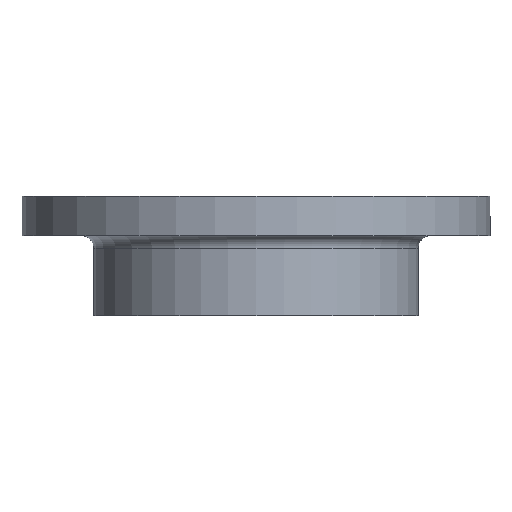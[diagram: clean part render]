
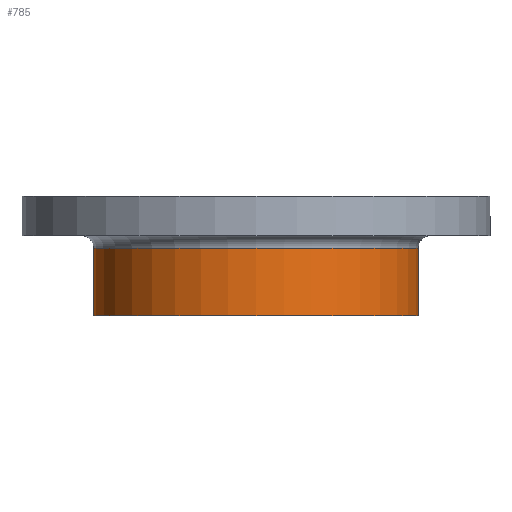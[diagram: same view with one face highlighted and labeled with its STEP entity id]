
A CAD part, front view. The second image highlights one B-rep face of the part: STEP entity #785.
In plain terms, the highlighted cylindrical face has radius 156 mm (diameter 312 mm), a partial arc.
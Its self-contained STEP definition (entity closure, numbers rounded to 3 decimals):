
#41 = CIRCLE ( 'NONE', #914, 156. ) ;
#160 = CARTESIAN_POINT ( 'NONE',  ( -156., 0., -115. ) ) ;
#179 = CIRCLE ( 'NONE', #181, 156. ) ;
#181 = AXIS2_PLACEMENT_3D ( 'NONE', #215, #213, #211 ) ;
#211 = DIRECTION ( 'NONE',  ( 1., 0., 0. ) ) ;
#213 = DIRECTION ( 'NONE',  ( 0., 0., 1. ) ) ;
#215 = CARTESIAN_POINT ( 'NONE',  ( 0., 0., -50. ) ) ;
#252 = CARTESIAN_POINT ( 'NONE',  ( 156., 0., -115. ) ) ;
#257 = CARTESIAN_POINT ( 'NONE',  ( -156., 0., -50. ) ) ;
#345 = DIRECTION ( 'NONE',  ( 0., 0., 1. ) ) ;
#346 = CARTESIAN_POINT ( 'NONE',  ( -156., 0., 0. ) ) ;
#347 = LINE ( 'NONE', #346, #589 ) ;
#358 = VECTOR ( 'NONE', #540, 1000. ) ;
#478 = DIRECTION ( 'NONE',  ( 1., 0., 0. ) ) ;
#481 = CYLINDRICAL_SURFACE ( 'NONE', #671, 156. ) ;
#482 = CARTESIAN_POINT ( 'NONE',  ( 0., 0., 0. ) ) ;
#483 = DIRECTION ( 'NONE',  ( 0., 0., 1. ) ) ;
#486 = FACE_OUTER_BOUND ( 'NONE', #1089, .T. ) ;
#505 = CARTESIAN_POINT ( 'NONE',  ( 156., 0., -50. ) ) ;
#526 = DIRECTION ( 'NONE',  ( 1., 0., 0. ) ) ;
#528 = DIRECTION ( 'NONE',  ( 0., 0., 1. ) ) ;
#529 = CARTESIAN_POINT ( 'NONE',  ( 0., 0., -115. ) ) ;
#540 = DIRECTION ( 'NONE',  ( 0., 0., 1. ) ) ;
#541 = CARTESIAN_POINT ( 'NONE',  ( 156., 0., 0. ) ) ;
#542 = LINE ( 'NONE', #541, #358 ) ;
#589 = VECTOR ( 'NONE', #345, 1000. ) ;
#637 = EDGE_CURVE ( 'NONE', #1001, #732, #542, .T. ) ;
#671 = AXIS2_PLACEMENT_3D ( 'NONE', #482, #483, #478 ) ;
#674 = EDGE_CURVE ( 'NONE', #1076, #1001, #41, .T. ) ;
#718 = ORIENTED_EDGE ( 'NONE', *, *, #938, .F. ) ;
#720 = ORIENTED_EDGE ( 'NONE', *, *, #674, .T. ) ;
#722 = ORIENTED_EDGE ( 'NONE', *, *, #637, .T. ) ;
#724 = ORIENTED_EDGE ( 'NONE', *, *, #1009, .F. ) ;
#732 = VERTEX_POINT ( 'NONE', #505 ) ;
#785 = ADVANCED_FACE ( 'NONE', ( #486 ), #481, .T. ) ;
#914 = AXIS2_PLACEMENT_3D ( 'NONE', #529, #528, #526 ) ;
#938 = EDGE_CURVE ( 'NONE', #1076, #998, #347, .T. ) ;
#998 = VERTEX_POINT ( 'NONE', #257 ) ;
#1001 = VERTEX_POINT ( 'NONE', #252 ) ;
#1009 = EDGE_CURVE ( 'NONE', #998, #732, #179, .T. ) ;
#1076 = VERTEX_POINT ( 'NONE', #160 ) ;
#1089 = EDGE_LOOP ( 'NONE', ( #718, #720, #722, #724 ) ) ;
